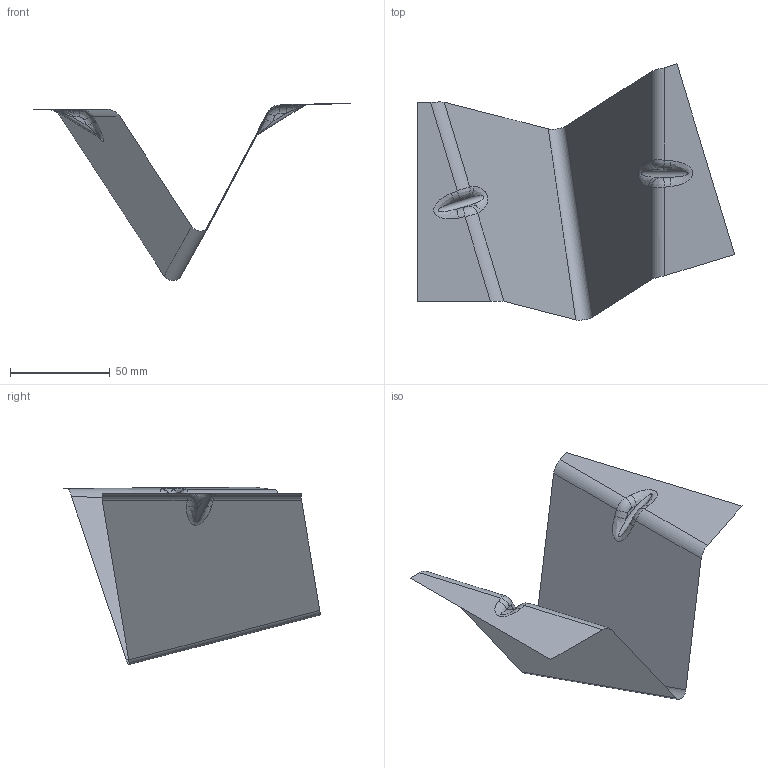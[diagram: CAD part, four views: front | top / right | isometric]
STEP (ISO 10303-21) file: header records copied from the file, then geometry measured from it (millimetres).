
FILE_DESCRIPTION(('CATIA V5 STEP Exchange'),'2;1');
FILE_NAME('C:\_Andres\UNIVERSIDAD\IQS\ASIGNATURAS\DAO\EXF\EXF-16172c\2inicio\Icart_Martori_Ej03_v16.stp','2017-03-05T19:32:18+00:00',('none'),('none'),'CATIA Version 5-6 Release 2014 SP1 HF18','CATIA V5 STEP AP203','none');
FILE_SCHEMA(('CONFIG_CONTROL_DESIGN'));
Length unit declared in the file: millimetre
Products named in the file (1): Icart_Martori_Ej03_v16
Bounding box: 159.31 x 128.56 x 89.04 mm (x, y, z)
Surface area: 23512.1 mm2 (no closed solid volume)
Topology: 0 solids, 1 shells, 31 faces, 78 edges, 48 vertices
Faces by surface type: cylinder 15, plane 8, bspline 8
Entity records: 2449 total; most frequent: CARTESIAN_POINT 1776, ORIENTED_EDGE 140, DIRECTION 90, EDGE_CURVE 78, VERTEX_POINT 48, VECTOR 40, LINE 40, ADVANCED_FACE 31
